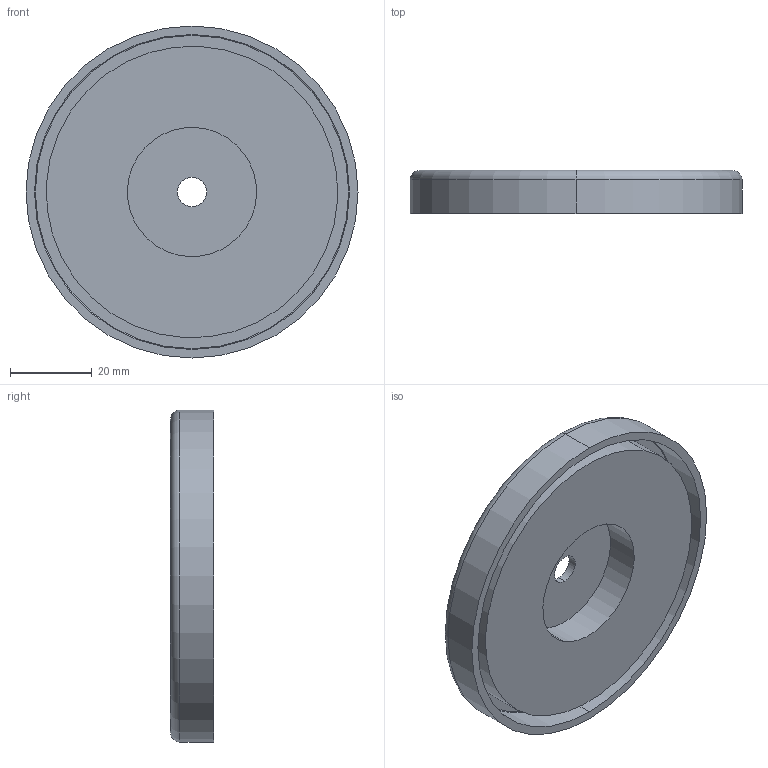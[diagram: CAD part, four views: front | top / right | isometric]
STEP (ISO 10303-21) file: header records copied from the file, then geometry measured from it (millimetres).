
FILE_DESCRIPTION (( 'STEP AP203' ), '1' );
FILE_NAME ('MX.STEP', '2018-07-31T15:00:52', ( '' ), ( '' ), 'SwSTEP 2.0', 'SolidWorks 2015', '' );
FILE_SCHEMA (( 'CONFIG_CONTROL_DESIGN' ));
Length unit declared in the file: inch
Products named in the file (1): MX
Bounding box: 81.28 x 10.54 x 81.28 mm (x, y, z)
Volume: 41207.5 mm3; surface area: 23896.5 mm2
Topology: 2 solids, 2 shells, 19 faces, 38 edges, 24 vertices
Faces by surface type: cylinder 10, plane 5, torus 4
Entity records: 593 total; most frequent: DIRECTION 106, CARTESIAN_POINT 82, ORIENTED_EDGE 76, AXIS2_PLACEMENT_3D 48, EDGE_CURVE 38, CIRCLE 28, VERTEX_POINT 24, EDGE_LOOP 24
